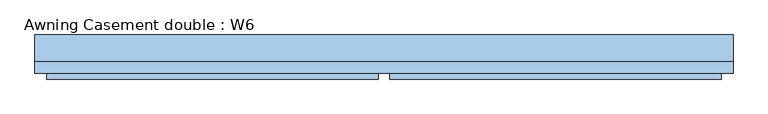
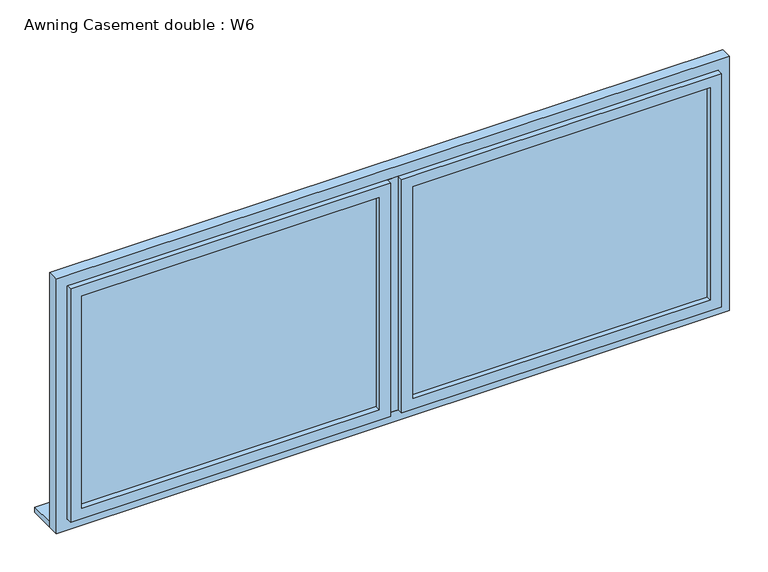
"""IFC4 building model written with IfcOpenShell, lengths in millimetres: window geometry, Awning Casement double : W6."""

from ifc_helpers import new_model, si_unit, frame, origin, place, context, project, spatial, polyline, outline, extrude, source, transform, mapped, element, save


def awning_casement_double_w6_428bdf5d(model_context):
    return source(origin(), model_context, "Body", "SweptSolid", [
        extrude(outline(polyline([(-75.0, -25.5), (-1400.0, -25.5), (-1400.0, -24.5), (-75.0, -24.5), (-75.0, -25.5)])), frame((0.0, 0.0, 900.0), z_axis=(0.0, 0.0, 1.0), x_axis=(1.0, 0.0, 0.0)), (0.0, 0.0, 1.0), 1000.0),
        extrude(outline(polyline([(1400.0, -25.5), (75.0, -25.5), (75.0, -24.5), (1400.0, -24.5), (1400.0, -25.5)])), frame((0.0, 0.0, 900.0), z_axis=(0.0, 0.0, 1.0), x_axis=(1.0, 0.0, 0.0)), (0.0, 0.0, 1.0), 1000.0),
        extrude(outline(polyline([(25.0, -24.5), (-25.0, -24.5), (-25.0, 25.5), (25.0, 25.5), (25.0, -24.5)])), frame((0.0, 0.0, 850.0), z_axis=(0.0, 0.0, 1.0), x_axis=(1.0, 0.0, 0.0)), (0.0, 0.0, 1.0), 1100.0),
        extrude(outline(polyline([(1950.0, -25.0), (1950.0, -1450.0), (850.0, -1450.0), (850.0, -25.0), (1950.0, -25.0)]), holes=[polyline([(1900.0, -75.0), (900.0, -75.0), (900.0, -1400.0), (1900.0, -1400.0), (1900.0, -75.0)])]), frame((0.0, -49.5, 0.0), z_axis=(0.0, 1.0, 0.0), x_axis=(0.0, 0.0, 1.0)), (0.0, 0.0, 1.0), 49.5),
        extrude(outline(polyline([(1950.0, 1450.0), (1950.0, 25.0), (850.0, 25.0), (850.0, 1450.0), (1950.0, 1450.0)]), holes=[polyline([(1900.0, 1400.0), (900.0, 1400.0), (900.0, 75.0), (1900.0, 75.0), (1900.0, 1400.0)])]), frame((0.0, -49.5, 0.0), z_axis=(0.0, 1.0, 0.0), x_axis=(0.0, 0.0, 1.0)), (0.0, 0.0, 1.0), 49.5),
        extrude(outline(polyline([(2000.0, 1500.0), (2000.0, -1500.0), (800.0, -1500.0), (800.0, 1500.0), (2000.0, 1500.0)]), holes=[polyline([(1950.0, 1450.0), (850.0, 1450.0), (850.0, -1450.0), (1950.0, -1450.0), (1950.0, 1450.0)])]), frame((0.0, -24.5, 0.0), z_axis=(0.0, 1.0, 0.0), x_axis=(0.0, 0.0, 1.0)), (0.0, 0.0, 1.0), 50.0),
        extrude(outline(polyline([(1500.0, 25.5), (-1500.0, 25.5), (-1500.0, 140.0), (1500.0, 140.0), (1500.0, 25.5)])), frame((0.0, 0.0, 800.0), z_axis=(0.0, 0.0, 1.0), x_axis=(1.0, 0.0, 0.0)), (0.0, 0.0, 1.0), 25.0),
    ])


if __name__ == "__main__":
    model = new_model("IFC4")
    model_context = context("Model", 3, world=origin())
    ifc_project = project(units=[si_unit("LENGTHUNIT", "METRE", prefix="MILLI")], contexts=[model_context])
    site = spatial("IfcSite", under=ifc_project)
    building = spatial("IfcBuilding", under=site)
    placement = place(None, origin())
    awning_casement_double_w6_shape = awning_casement_double_w6_428bdf5d(model_context)
    element("IfcWindow", 1, ObjectType="Awning Casement double : W6", at=placement, inside=building, context=model_context, shape_type="MappedRepresentation", body=[
        mapped(awning_casement_double_w6_shape, transform((0.0, 0.0, 0.0), x_axis=(1.0, 0.0, 0.0), y_axis=(0.0, 1.0, 0.0), z_axis=(0.0, 0.0, 1.0))),
    ])
    save(model, "model.ifc")
